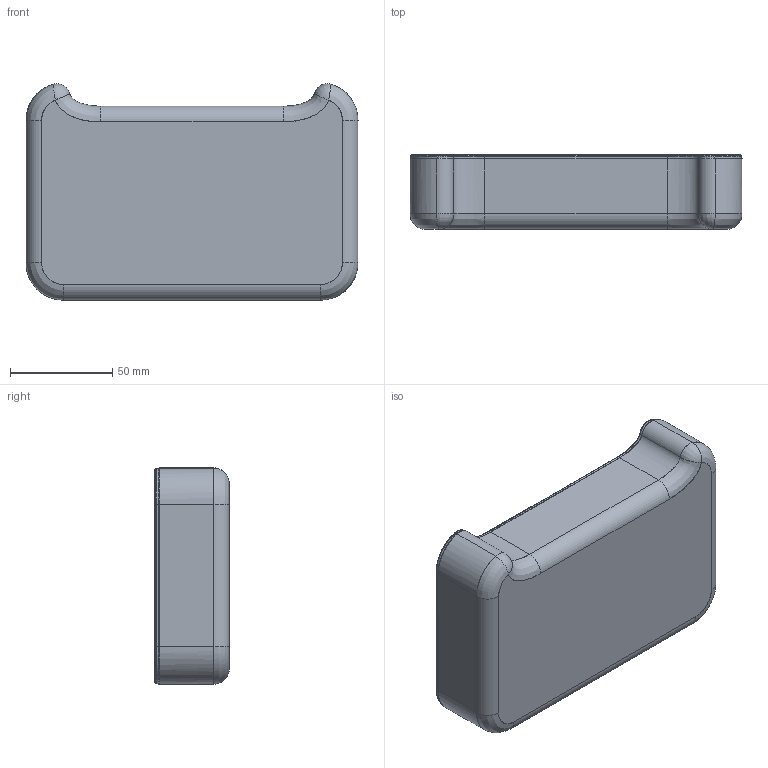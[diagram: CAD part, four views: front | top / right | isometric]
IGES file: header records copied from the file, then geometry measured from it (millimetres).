
Start section: SolidWorks IGES file using analytic representation for surfaces
Global section: file name: \\SBS\Data\NANUK\NANUK Marketing\NANUK Technical Drawings\3D Files\IGES\320\nano_320_bottom_INNER_SURFACES_assembly.IGS; native system: SolidWorks 2014; preprocessor: SolidWorks 2014; author: dposada; date: 150130.142207; units: millimetre
Bounding box: 162.04 x 36.37 x 105.58 mm (x, y, z)
Surface area: 86542.1 mm2 (no closed solid volume)
Topology: 0 solids, 0 shells, 1274 faces, 13487 edges, 13480 vertices
Faces by surface type: bspline 1127, revolution 147
